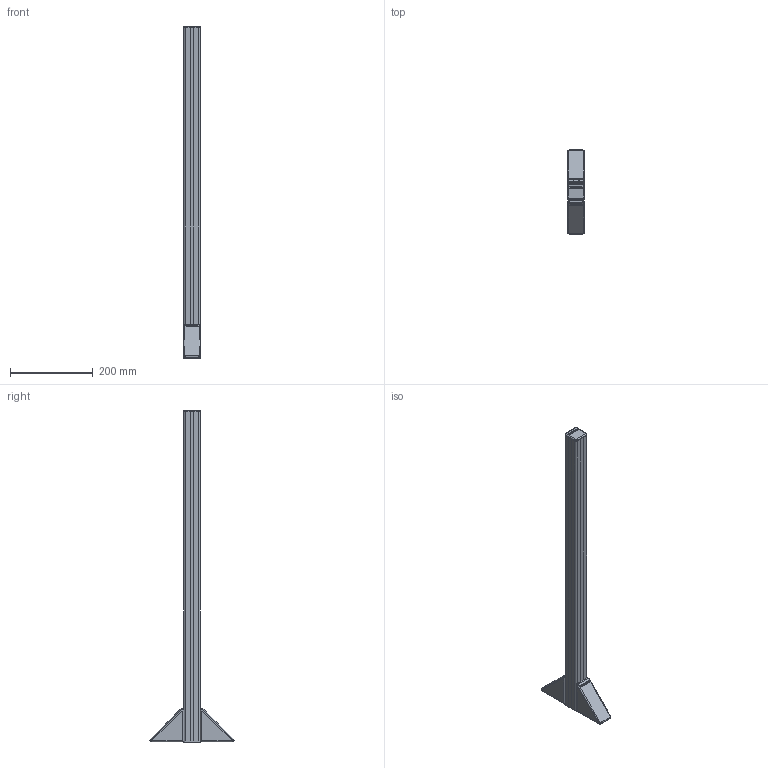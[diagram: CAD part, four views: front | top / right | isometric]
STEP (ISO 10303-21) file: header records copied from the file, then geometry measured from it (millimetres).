
FILE_DESCRIPTION(/* description */ (''),/* implementation_level */ '2;1');
FILE_NAME(/* name */ 'LA-6007-1080-A.stp',/* time_stamp */ '2015-01-28T11:23:59+00:00',/* author */ (''),/* organization */ (''),/* preprocessor_version */ 'ST-DEVELOPER v11',/* originating_system */ 'SIEMENS PLM Software NX 7.5',/* authorisation */ '');
FILE_SCHEMA (('AUTOMOTIVE_DESIGN { 1 0 10303 214 1 1 1 1 }'));
Length unit declared in the file: millimetre
Products named in the file (1): rt13982Avlbo
Bounding box: 40 x 203.46 x 804 mm (x, y, z)
Volume: 1570812.2 mm3; surface area: 151922.9 mm2
Topology: 1 solids, 1 shells, 168 faces, 638 edges, 520 vertices
Faces by surface type: plane 108, cylinder 30, bspline 18, cone 12
Entity records: 9264 total; most frequent: CARTESIAN_POINT 3231, ORIENTED_EDGE 1276, DIRECTION 837, EDGE_CURVE 638, VERTEX_POINT 520, AXIS2_PLACEMENT_3D 304, B_SPLINE_CURVE_WITH_KNOTS 256, LINE 229
